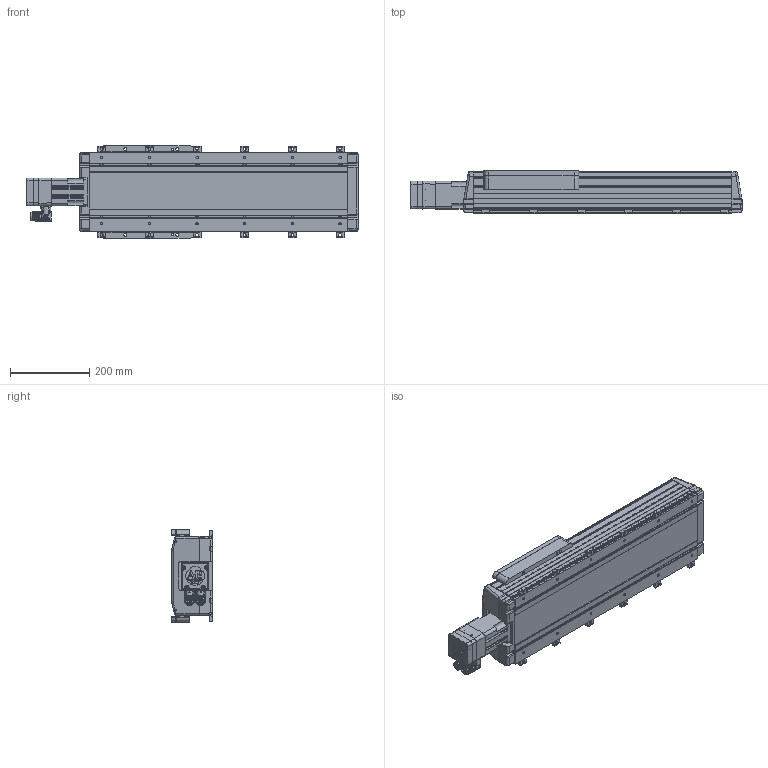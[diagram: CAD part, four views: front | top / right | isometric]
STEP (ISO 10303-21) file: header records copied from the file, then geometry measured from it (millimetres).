
FILE_DESCRIPTION((''),'2;1');
FILE_NAME('MPAS-B80361-V05S4A_ASM','2007-08-01T',('jayapriya'),(''),'PRO/ENGINEER BY PARAMETRIC TECHNOLOGY CORPORATION, 2006200','PRO/ENGINEER BY PARAMETRIC TECHNOLOGY CORPORATION, 2006200','');
FILE_SCHEMA(('CONFIG_CONTROL_DESIGN'));
Length unit declared in the file: millimetre
Products named in the file (12): PART-1_200_B_701; PART-2_200_B; PART-3_200_B; PART-4_200_B; PART-5_200_B_701; PART-6_200_B; PART-7_200_B; MPL-210-HSNG44AA; MPL-200-CONN-SIGNAL; MPL-200-CONN-POWER; MPLS-X210E-VJ44AA_ASM; MPAS-B80361-V05S4A_ASM
Assembly tree (33 placements, depth 3):
  MPAS-B80361-V05S4A_ASM
    PART-1_200_B_701
    PART-2_200_B
    PART-3_200_B
    PART-4_200_B
    PART-5_200_B_701
    PART-6_200_B  x12
    PART-7_200_B  x12
    MPLS-X210E-VJ44AA_ASM
      MPL-210-HSNG44AA
      MPL-200-CONN-SIGNAL
      MPL-200-CONN-POWER
Bounding box: 835.8 x 105.4 x 232 mm (x, y, z)
Volume: 7599940.5 mm3; surface area: 1521835.4 mm2
Topology: 32 solids, 62 shells, 2388 faces, 6547 edges, 4330 vertices
Faces by surface type: cylinder 1101, plane 1032, cone 120, torus 77, bspline 42, sphere 16
Entity records: 75815 total; most frequent: CARTESIAN_POINT 20488, ORIENTED_EDGE 11686, DIRECTION 11458, EDGE_CURVE 5845, AXIS2_PLACEMENT_3D 4180, VERTEX_POINT 3890, VECTOR 3098, LINE 3098
